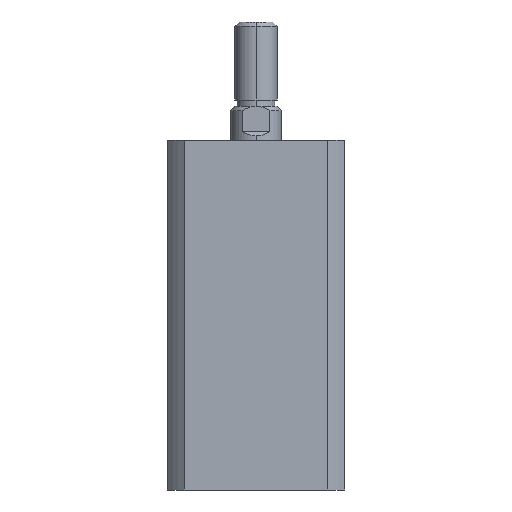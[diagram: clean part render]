
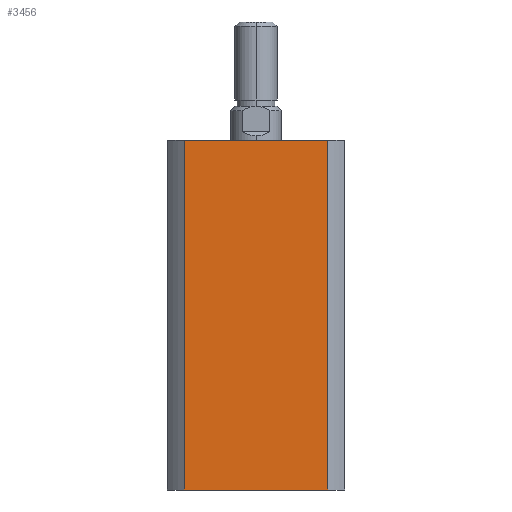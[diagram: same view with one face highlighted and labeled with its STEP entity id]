
A CAD part, left-side view. The second image highlights one B-rep face of the part: STEP entity #3456.
In plain terms, the highlighted planar face has unit normal (-1, 0, 0).
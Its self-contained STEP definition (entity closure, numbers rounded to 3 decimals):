
#504 = AXIS2_PLACEMENT_3D ( 'NONE', #583, #573, #571 ) ;
#571 = DIRECTION ( 'NONE',  ( 0., 1., 0. ) ) ;
#573 = DIRECTION ( 'NONE',  ( 1., 0., 0. ) ) ;
#576 = PLANE ( 'NONE',  #504 ) ;
#583 = CARTESIAN_POINT ( 'NONE',  ( -21., 21., 83. ) ) ;
#606 = CARTESIAN_POINT ( 'NONE',  ( -21., -16.971, 0. ) ) ;
#618 = CARTESIAN_POINT ( 'NONE',  ( -21., 16.971, 0. ) ) ;
#732 = CARTESIAN_POINT ( 'NONE',  ( -21., -16.971, 83. ) ) ;
#1110 = CARTESIAN_POINT ( 'NONE',  ( -21., 16.971, 83. ) ) ;
#1298 = VERTEX_POINT ( 'NONE', #732 ) ;
#1334 = VERTEX_POINT ( 'NONE', #618 ) ;
#1339 = VERTEX_POINT ( 'NONE', #606 ) ;
#1378 = VERTEX_POINT ( 'NONE', #1110 ) ;
#1548 = ORIENTED_EDGE ( 'NONE', *, *, #3621, .F. ) ;
#1549 = ORIENTED_EDGE ( 'NONE', *, *, #3620, .F. ) ;
#1552 = ORIENTED_EDGE ( 'NONE', *, *, #3574, .T. ) ;
#2243 = ORIENTED_EDGE ( 'NONE', *, *, #3612, .F. ) ;
#2621 = VECTOR ( 'NONE', #4744, 1000. ) ;
#2623 = LINE ( 'NONE', #4740, #2621 ) ;
#2800 = FACE_OUTER_BOUND ( 'NONE', #3049, .T. ) ;
#3049 = EDGE_LOOP ( 'NONE', ( #1549, #2243, #1548, #1552 ) ) ;
#3456 = ADVANCED_FACE ( 'NONE', ( #2800 ), #576, .F. ) ;
#3574 = EDGE_CURVE ( 'NONE', #1334, #1339, #2623, .T. ) ;
#3612 = EDGE_CURVE ( 'NONE', #1378, #1298, #4887, .T. ) ;
#3620 = EDGE_CURVE ( 'NONE', #1298, #1339, #5141, .T. ) ;
#3621 = EDGE_CURVE ( 'NONE', #1334, #1378, #5139, .T. ) ;
#4445 = DIRECTION ( 'NONE',  ( 0., 0., 1. ) ) ;
#4448 = CARTESIAN_POINT ( 'NONE',  ( -21., 16.971, 83. ) ) ;
#4449 = DIRECTION ( 'NONE',  ( 0., 0., -1. ) ) ;
#4454 = CARTESIAN_POINT ( 'NONE',  ( -21., -16.971, 83. ) ) ;
#4481 = CARTESIAN_POINT ( 'NONE',  ( -21., 21., 83. ) ) ;
#4490 = DIRECTION ( 'NONE',  ( 0., -1., 0. ) ) ;
#4740 = CARTESIAN_POINT ( 'NONE',  ( -21., 21., 0. ) ) ;
#4744 = DIRECTION ( 'NONE',  ( 0., -1., 0. ) ) ;
#4887 = LINE ( 'NONE', #4481, #4901 ) ;
#4901 = VECTOR ( 'NONE', #4490, 1000. ) ;
#5136 = VECTOR ( 'NONE', #4445, 1000. ) ;
#5138 = VECTOR ( 'NONE', #4449, 1000. ) ;
#5139 = LINE ( 'NONE', #4448, #5136 ) ;
#5141 = LINE ( 'NONE', #4454, #5138 ) ;
